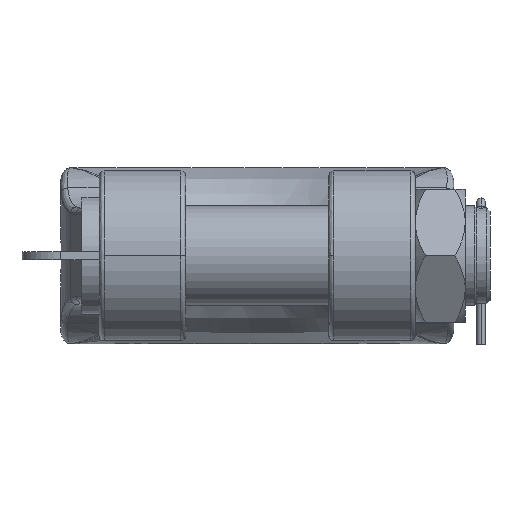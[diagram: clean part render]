
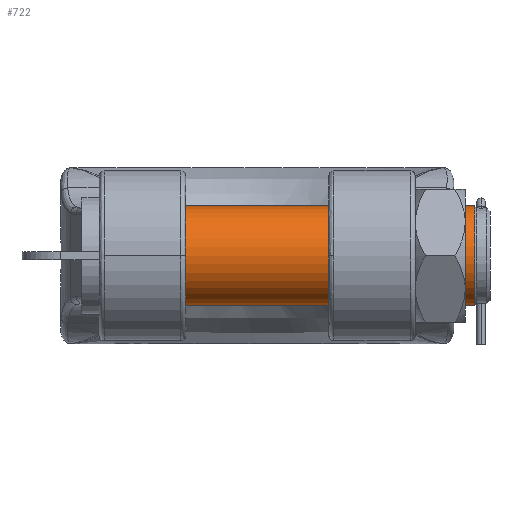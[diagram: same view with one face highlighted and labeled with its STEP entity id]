
A CAD part, front view. The second image highlights one B-rep face of the part: STEP entity #722.
In plain terms, the highlighted cylindrical face has radius 150 mm (diameter 300 mm), a partial arc.
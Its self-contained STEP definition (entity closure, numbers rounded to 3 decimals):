
#722=ADVANCED_FACE('NONE',(#1945),#1946,.T.);
#1945=FACE_OUTER_BOUND('',#3776,.T.);
#1946=CYLINDRICAL_SURFACE('',#3777,150.0);
#3776=EDGE_LOOP('',(#43151,#43152,#43153,#43154));
#3777=AXIS2_PLACEMENT_3D('',#43155,#43156,#43157);
#43151=ORIENTED_EDGE('',*,*,#47312,.F.);
#43152=ORIENTED_EDGE('',*,*,#47353,.T.);
#43153=ORIENTED_EDGE('',*,*,#47314,.T.);
#43154=ORIENTED_EDGE('',*,*,#47355,.T.);
#43155=CARTESIAN_POINT('',(-475.0,0.,0.0));
#43156=DIRECTION('',(-1.0,0.0,0.0));
#43157=DIRECTION('',(0.0,0.0,-1.0));
#47312=EDGE_CURVE('NONE',#49371,#49377,#49378,.T.);
#47314=EDGE_CURVE('NONE',#49373,#49379,#49381,.T.);
#47353=EDGE_CURVE('NONE',#49371,#49373,#49432,.T.);
#47355=EDGE_CURVE('NONE',#49379,#49377,#49434,.T.);
#49371=VERTEX_POINT('NONE',#52602);
#49373=VERTEX_POINT('NONE',#52604);
#49377=VERTEX_POINT('NONE',#52608);
#49378=LINE('',#52609,#52610);
#49379=VERTEX_POINT('NONE',#52611);
#49381=LINE('',#52613,#52614);
#49432=CIRCLE('',#53112,150.0);
#49434=CIRCLE('',#53114,150.0);
#52602=CARTESIAN_POINT('',(-471.0,0.,150.0));
#52604=CARTESIAN_POINT('',(-471.0,0.,-150.0));
#52608=CARTESIAN_POINT('',(653.0,0.,150.0));
#52609=CARTESIAN_POINT('',(-475.0,0.,150.0));
#52610=VECTOR('',#79524,1000.0);
#52611=CARTESIAN_POINT('',(653.0,0.,-150.0));
#52613=CARTESIAN_POINT('',(-475.0,0.,-150.0));
#52614=VECTOR('',#79528,1000.0);
#53112=AXIS2_PLACEMENT_3D('',#79569,#79570,#79571);
#53114=AXIS2_PLACEMENT_3D('',#79572,#79573,#79574);
#79524=DIRECTION('',(1.0,-0.0,0.0));
#79528=DIRECTION('',(1.0,-0.0,0.0));
#79569=CARTESIAN_POINT('',(-471.0,0.,0.0));
#79570=DIRECTION('',(1.0,0.0,0.0));
#79571=DIRECTION('',(0.0,0.0,-1.0));
#79572=CARTESIAN_POINT('',(653.0,0.,0.0));
#79573=DIRECTION('',(-1.0,0.0,0.0));
#79574=DIRECTION('',(0.0,0.0,-1.0));
